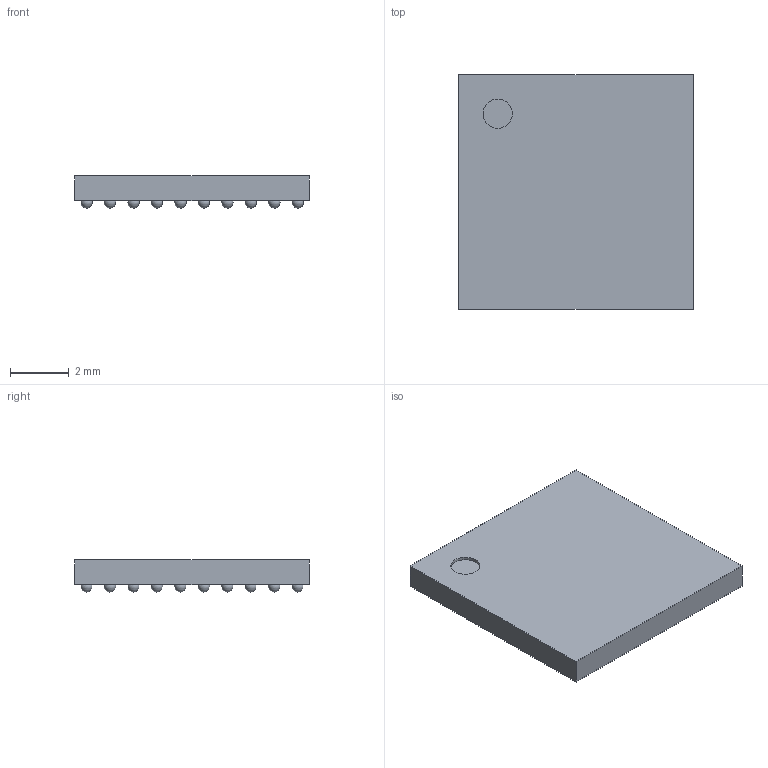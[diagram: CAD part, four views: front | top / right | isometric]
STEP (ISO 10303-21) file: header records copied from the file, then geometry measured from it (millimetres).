
FILE_DESCRIPTION(('Open CASCADE Model'),'2;1');
FILE_NAME('Open CASCADE Shape Model','2022-12-07T17:38:17',('Author'),( 'Open CASCADE'),'Open CASCADE STEP processor 6.8','Open CASCADE 6.8' ,'Unknown');
FILE_SCHEMA(('AUTOMOTIVE_DESIGN_CC2 { 1 2 10303 214 -1 1 5 4 }'));
Length unit declared in the file: millimetre
Products named in the file (5): BGA100C80P10X10_800X800X110.step; Open CASCADE STEP translator 6.8 4.1; Body; Open CASCADE STEP translator 6.8 4.2.1; ball
Assembly tree (103 placements, depth 3):
  BGA100C80P10X10_800X800X110.step
    Open CASCADE STEP translator 6.8 4.1
    Body
      Open CASCADE STEP translator 6.8 4.2.1
    ball  x100
Bounding box: 8 x 8 x 1.1 mm (x, y, z)
Volume: 57.7 mm3; surface area: 206.6 mm2
Topology: 101 solids, 102 shells, 109 faces, 316 edges, 211 vertices
Faces by surface type: sphere 100, plane 8, cylinder 1
Full cylindrical faces by diameter (mm): 1 x1
Entity records: 1344 total; most frequent: DIRECTION 277, CARTESIAN_POINT 179, AXIS2_PLACEMENT_3D 117, PRODUCT_DEFINITION_SHAPE 108, CONTEXT_DEPENDENT_SHAPE_REPRESENTATION 103, ITEM_DEFINED_TRANSFORMATION 103, NEXT_ASSEMBLY_USAGE_OCCURRENCE 103, LINE 41
